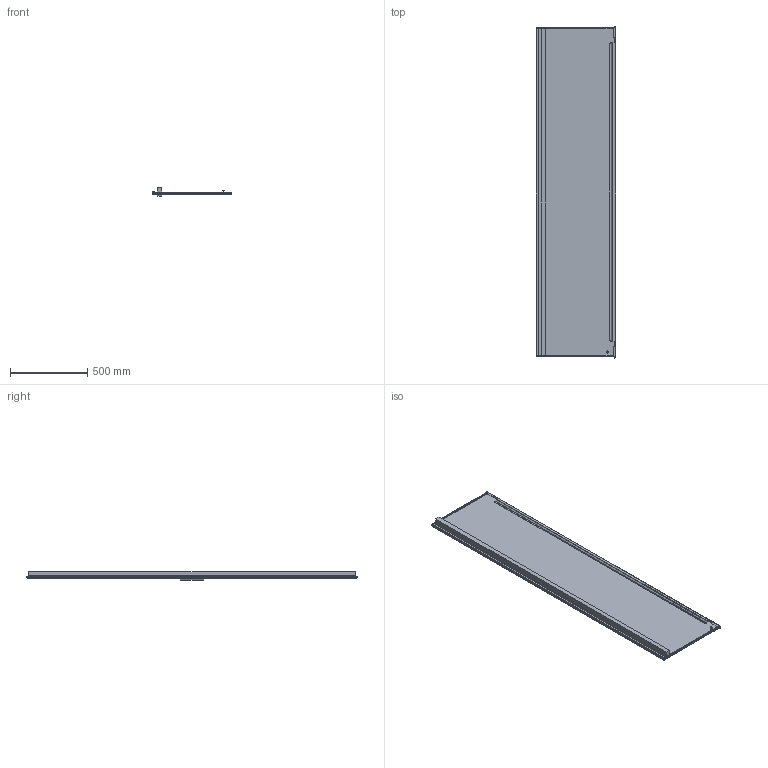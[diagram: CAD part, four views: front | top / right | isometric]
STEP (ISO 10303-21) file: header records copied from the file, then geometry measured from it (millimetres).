
FILE_DESCRIPTION (( 'STEP AP203' ), '1' );
FILE_NAME ('D 220.60 I Äâåðü òåëåêîììóíèêàöèîííàÿ.STEP', '2013-01-11T17:58:24', ( '' ), ( '' ), 'SwSTEP 2.0', 'SolidWorks 2012', '' );
FILE_SCHEMA (( 'CONFIG_CONTROL_DESIGN' ));
Length unit declared in the file: millimetre
Products named in the file (1): D 220.60 I Äâåðü òåëåêîììóíèêàöèîííàÿ
Bounding box: 518 x 2150.5 x 55 mm (x, y, z)
Volume: 4537021.5 mm3; surface area: 2732359 mm2
Topology: 3 solids, 3 shells, 175 faces, 406 edges, 226 vertices
Faces by surface type: cylinder 70, plane 65, sphere 24, cone 12, torus 4
Entity records: 4827 total; most frequent: DIRECTION 900, CARTESIAN_POINT 788, ORIENTED_EDGE 772, EDGE_CURVE 386, AXIS2_PLACEMENT_3D 338, VERTEX_POINT 226, VECTOR 224, LINE 224
